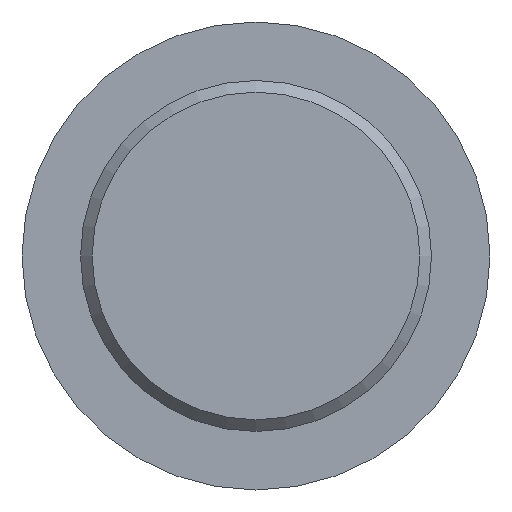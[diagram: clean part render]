
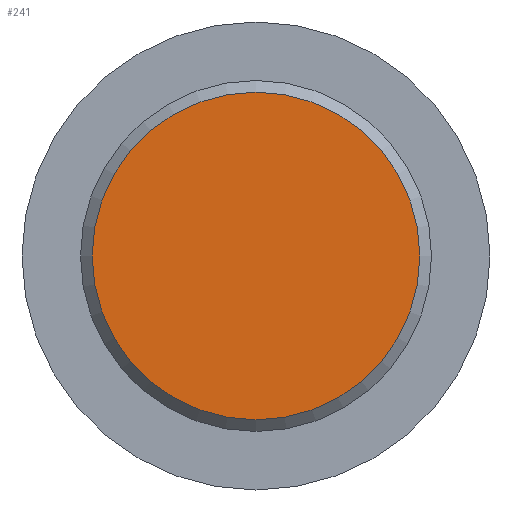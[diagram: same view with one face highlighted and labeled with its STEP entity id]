
A CAD part, front view. The second image highlights one B-rep face of the part: STEP entity #241.
In plain terms, the highlighted planar face has unit normal (0, -1, 0).
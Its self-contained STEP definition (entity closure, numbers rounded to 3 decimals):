
#26=PLANE('',#279);
#34=FACE_OUTER_BOUND('',#49,.T.);
#49=EDGE_LOOP('',(#175));
#86=CIRCLE('',#278,7.);
#112=VERTEX_POINT('',#414);
#139=EDGE_CURVE('',#112,#112,#86,.T.);
#175=ORIENTED_EDGE('',*,*,#139,.F.);
#241=ADVANCED_FACE('',(#34),#26,.T.);
#278=AXIS2_PLACEMENT_3D('',#416,#325,#326);
#279=AXIS2_PLACEMENT_3D('',#417,#327,#328);
#325=DIRECTION('center_axis',(0.,1.,0.));
#326=DIRECTION('ref_axis',(0.,0.,-1.));
#327=DIRECTION('center_axis',(0.,-1.,0.));
#328=DIRECTION('ref_axis',(0.,0.,-1.));
#414=CARTESIAN_POINT('',(0.,-250.,7.));
#416=CARTESIAN_POINT('Origin',(0.,-250.,0.));
#417=CARTESIAN_POINT('Origin',(0.,-250.,7.5));
